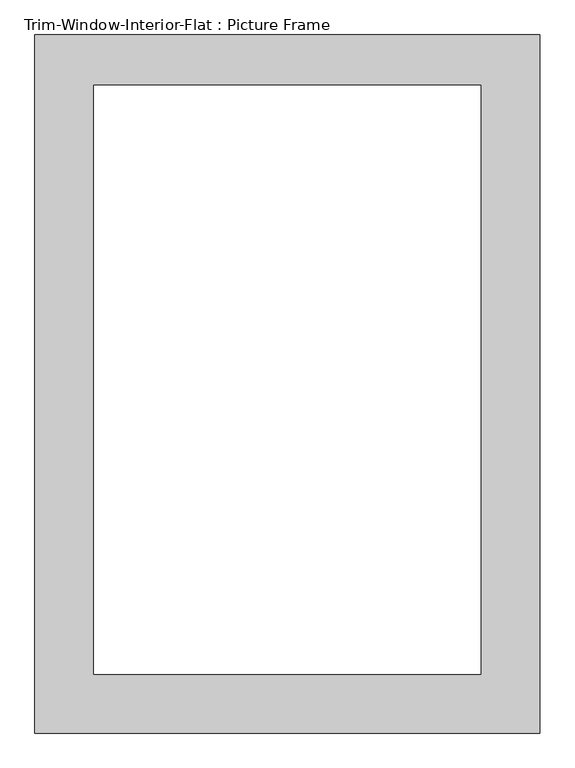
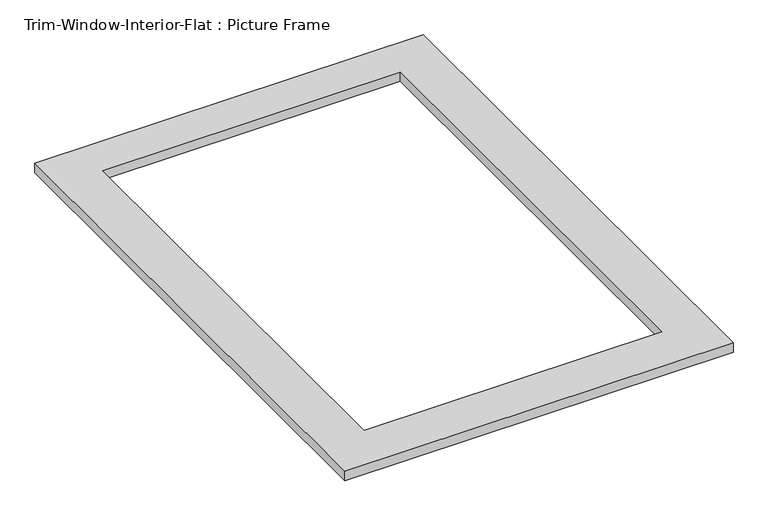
"""IFC4 building model written with IfcOpenShell, lengths in millimetres: proxy geometry, Trim-Window-Interior-Flat : Picture Frame."""

from ifc_helpers import new_model, si_unit, origin, origin_with_axes, place, context, project, spatial, polyline, outline, extrude, source, transform, mapped, element, save


def trim_window_interior_flat_picture_frame_c160d771(model_context):
    return source(origin(), model_context, "Body", "SweptSolid", [
        extrude(outline(polyline([(381.0, 63.5), (381.0, -990.6), (-381.0, -990.6), (-381.0, 63.5), (381.0, 63.5)]), holes=[polyline([(292.1, -12.7), (-292.1, -12.7), (-292.1, -901.7), (292.1, -901.7), (292.1, -12.7)])]), origin_with_axes(), (0.0, 0.0, 1.0), 19.05),
    ])


if __name__ == "__main__":
    model = new_model("IFC4")
    model_context = context("Model", 3, world=origin())
    ifc_project = project(units=[si_unit("LENGTHUNIT", "METRE", prefix="MILLI")], contexts=[model_context])
    site = spatial("IfcSite", under=ifc_project)
    building = spatial("IfcBuilding", under=site)
    placement = place(None, origin())
    trim_window_interior_flat_picture_frame_shape = trim_window_interior_flat_picture_frame_c160d771(model_context)
    element("IfcBuildingElementProxy", 1, Name="Trim-Window-Interior-Flat : Picture Frame", ObjectType="Trim-Window-Interior-Flat : Picture Frame", at=placement, inside=building, context=model_context, shape_type="MappedRepresentation", body=[
        mapped(trim_window_interior_flat_picture_frame_shape, transform((0.0, 0.0, 0.0), x_axis=(1.0, 0.0, 0.0), y_axis=(0.0, 1.0, 0.0), z_axis=(0.0, 0.0, 1.0))),
    ])
    save(model, "model.ifc")
